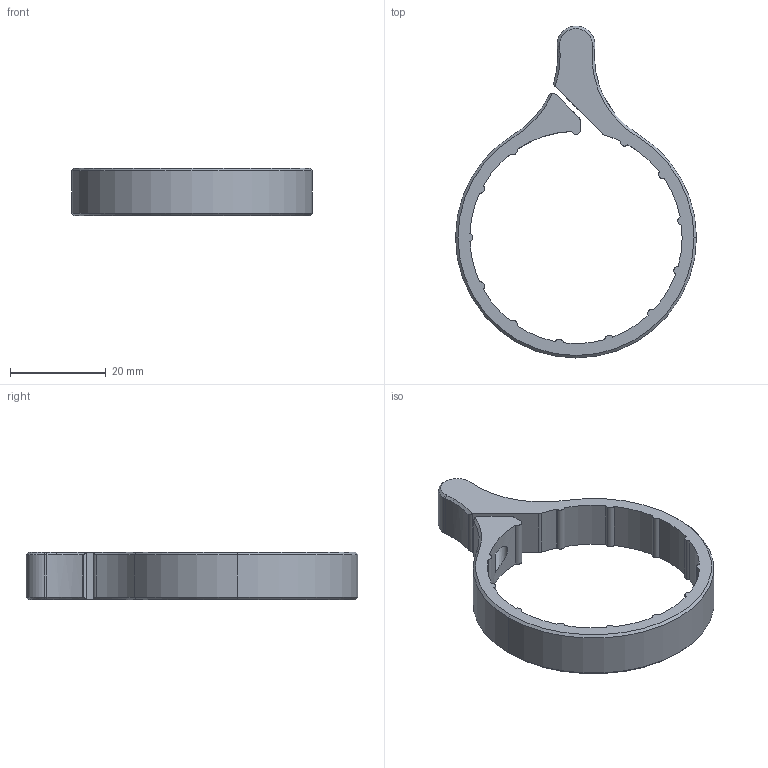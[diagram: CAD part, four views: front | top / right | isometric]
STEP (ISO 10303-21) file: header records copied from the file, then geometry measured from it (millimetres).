
FILE_DESCRIPTION (( 'STEP AP214' ), '1' );
FILE_NAME ('Vortex Viper PST 6-24x50 Gen1.STEP', '2020-01-13T17:46:59', ( '' ), ( '' ), 'SwSTEP 2.0', 'SolidWorks 2017', '' );
FILE_SCHEMA (( 'AUTOMOTIVE_DESIGN' ));
Length unit declared in the file: inch
Products named in the file (1): Vortex Viper PST 6-24x50 Gen1
Bounding box: 50.44 x 69.49 x 10 mm (x, y, z)
Volume: 5963.8 mm3; surface area: 4879.9 mm2
Topology: 1 solids, 1 shells, 82 faces, 217 edges, 139 vertices
Faces by surface type: cylinder 54, cone 20, plane 8
Entity records: 2748 total; most frequent: CARTESIAN_POINT 569, DIRECTION 498, ORIENTED_EDGE 434, EDGE_CURVE 217, AXIS2_PLACEMENT_3D 208, VERTEX_POINT 139, CIRCLE 125, EDGE_LOOP 88
